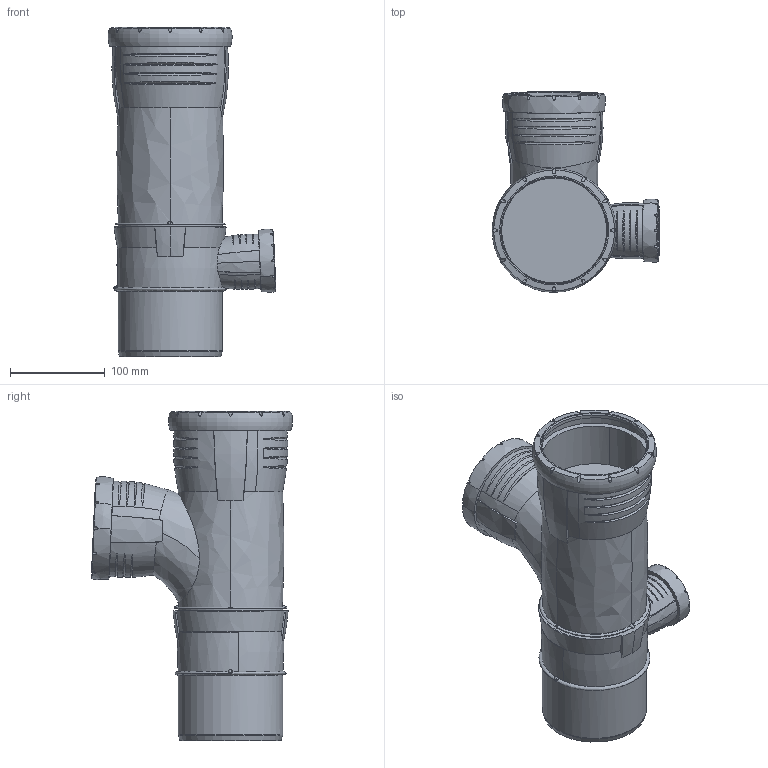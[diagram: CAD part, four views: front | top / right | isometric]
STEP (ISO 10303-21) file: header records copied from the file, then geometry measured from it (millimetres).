
FILE_DESCRIPTION(/* description */ (''),/* implementation_level */ '2;1');
FILE_NAME(/* name */ 'H:\Geberit-Teile\Export\Silent\stp\393562.stp',/* time_stamp */ '2017-03-30T11:38:26+02:00',/* author */ ('seihe2'),/* organization */ (''),/* preprocessor_version */ 'ST-DEVELOPER v15.2',/* originating_system */ 'Autodesk Inventor 2014',/* authorisation */ '');
FILE_SCHEMA (('AUTOMOTIVE_DESIGN { 1 0 10303 214 3 1 1 }'));
Length unit declared in the file: millimetre
Products named in the file (1): 393562
Bounding box: 177.09 x 212.39 x 347.7 mm (x, y, z)
Surface area: 279674.1 mm2 (no closed solid volume)
Topology: 0 solids, 1 shells, 271 faces, 790 edges, 535 vertices
Faces by surface type: bspline 144, cone 58, plane 48, cylinder 17, torus 4
Full cylindrical faces by diameter (mm): 51 x1, 60.1 x1, 91.2 x1, 100.2 x1, 110.2 x2, 111.3 x1, 121.5 x1
Entity records: 18129 total; most frequent: CARTESIAN_POINT 12066, ORIENTED_EDGE 1494, DIRECTION 785, EDGE_CURVE 747, VERTEX_POINT 524, B_SPLINE_CURVE_WITH_KNOTS 415, AXIS2_PLACEMENT_3D 352, EDGE_LOOP 317
